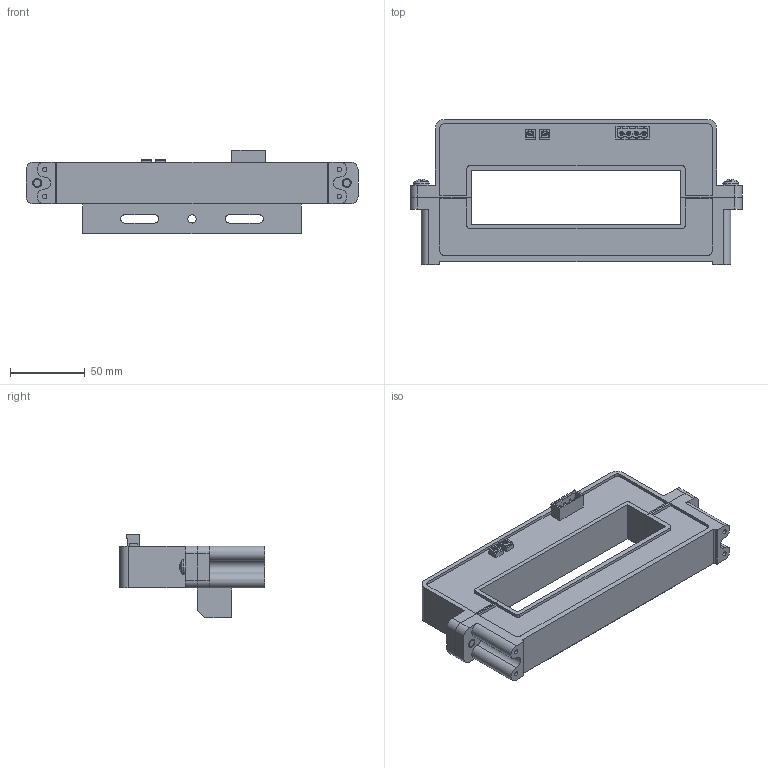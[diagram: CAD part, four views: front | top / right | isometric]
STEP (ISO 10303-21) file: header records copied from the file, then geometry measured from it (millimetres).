
FILE_DESCRIPTION(('FreeCAD Model'),'2;1');
FILE_NAME('Open CASCADE Shape Model','2023-08-24T11:16:42',('Author'),( ''),'Open CASCADE STEP processor 7.5','FreeCAD','Unknown');
FILE_SCHEMA(('AUTOMOTIVE_DESIGN { 1 0 10303 214 1 1 1 1 }'));
Length unit declared in the file: millimetre
Products named in the file (1): SHo10V14036
Bounding box: 222 x 97 x 56 mm (x, y, z)
Volume: 511202.2 mm3; surface area: 106039 mm2
Topology: 6 solids, 6 shells, 518 faces, 1343 edges, 890 vertices
Faces by surface type: plane 396, cylinder 94, bspline 16, cone 12
Full cylindrical faces by diameter (mm): 3 x6, 5.386 x2, 5.5 x1, 6 x6, 10.5 x2
Entity records: 35006 total; most frequent: CARTESIAN_POINT 8184, DIRECTION 4890, LINE 3289, VECTOR 3289, ORIENTED_EDGE 2686, PCURVE 2686, DEFINITIONAL_REPRESENTATION 2686, EDGE_CURVE 1343
